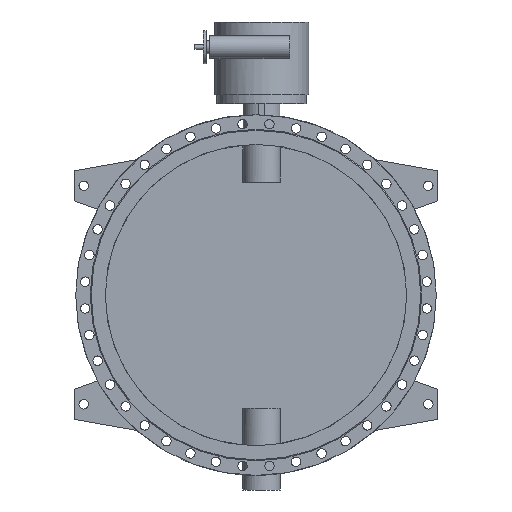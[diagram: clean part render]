
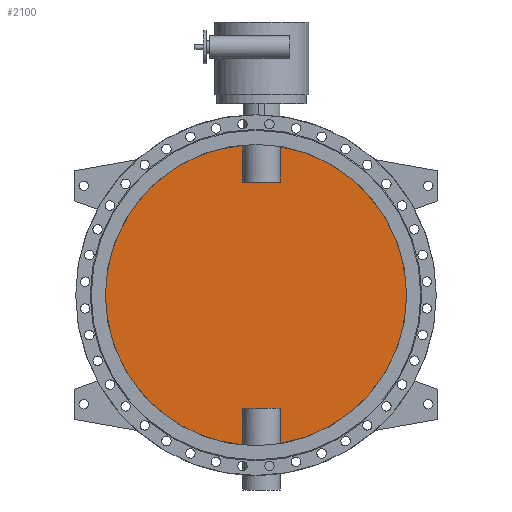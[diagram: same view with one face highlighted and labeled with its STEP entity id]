
A CAD part, front view. The second image highlights one B-rep face of the part: STEP entity #2100.
In plain terms, the highlighted planar face has unit normal (0, -1, 0).
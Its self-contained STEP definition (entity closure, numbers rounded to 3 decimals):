
#2100=ADVANCED_FACE('',(#4492),#4494,.F.);
#4492=FACE_BOUND('',#4493,.T.);
#4493=EDGE_LOOP('',(#5546,#5547,#5548,#5549,#5550,#5551,#5552,#5553));
#4494=PLANE('',#4495);
#4495=AXIS2_PLACEMENT_3D('',#4496,#4497,#4498);
#4496=CARTESIAN_POINT('',(0.,-5.,0.));
#4497=DIRECTION('',(0.,1.,0.));
#4498=DIRECTION('',(1.,0.,0.));
#5546=ORIENTED_EDGE('',*,*,#6073,.T.);
#5547=ORIENTED_EDGE('',*,*,#6079,.T.);
#5548=ORIENTED_EDGE('',*,*,#6080,.T.);
#5549=ORIENTED_EDGE('',*,*,#6081,.T.);
#5550=ORIENTED_EDGE('',*,*,#6075,.T.);
#5551=ORIENTED_EDGE('',*,*,#6082,.T.);
#5552=ORIENTED_EDGE('',*,*,#6083,.T.);
#5553=ORIENTED_EDGE('',*,*,#6084,.T.);
#6073=EDGE_CURVE('',#6969,#6970,#6971,.F.);
#6075=EDGE_CURVE('',#6974,#6972,#6975,.F.);
#6079=EDGE_CURVE('',#6970,#6981,#6982,.T.);
#6080=EDGE_CURVE('',#6981,#6983,#6984,.F.);
#6081=EDGE_CURVE('',#6983,#6974,#6985,.F.);
#6082=EDGE_CURVE('',#6972,#6986,#6987,.F.);
#6083=EDGE_CURVE('',#6986,#6988,#6989,.F.);
#6084=EDGE_CURVE('',#6988,#6969,#6990,.T.);
#6969=VERTEX_POINT('',#10007);
#6970=VERTEX_POINT('',#10008);
#6971=CIRCLE('',#10009,800.);
#6972=VERTEX_POINT('',#10013);
#6974=VERTEX_POINT('',#10112);
#6975=CIRCLE('',#10113,800.);
#6981=VERTEX_POINT('',#10217);
#6982=LINE('',#10218,#10219);
#6983=VERTEX_POINT('',#10221);
#6984=LINE('',#10222,#10223);
#6985=LINE('',#10225,#10226);
#6986=VERTEX_POINT('',#10228);
#6987=LINE('',#10229,#10230);
#6988=VERTEX_POINT('',#10232);
#6989=LINE('',#10233,#10234);
#6990=LINE('',#10236,#10237);
#10007=CARTESIAN_POINT('',(129.875,-5.,-789.387));
#10008=CARTESIAN_POINT('',(129.875,-5.,789.387));
#10009=AXIS2_PLACEMENT_3D('',#10010,#10011,#10012);
#10010=CARTESIAN_POINT('',(0.,-5.,0.));
#10011=DIRECTION('',(0.,1.,0.));
#10012=DIRECTION('',(0.162,0.,0.987));
#10013=CARTESIAN_POINT('',(-69.875,-5.,-796.943));
#10112=CARTESIAN_POINT('',(-69.875,-5.,796.943));
#10113=AXIS2_PLACEMENT_3D('',#10114,#10115,#10116);
#10114=CARTESIAN_POINT('',(0.,-5.,0.));
#10115=DIRECTION('',(0.,1.,0.));
#10116=DIRECTION('',(-0.087,0.,-0.996));
#10217=CARTESIAN_POINT('',(129.875,-5.,600.));
#10218=CARTESIAN_POINT('',(129.875,-5.,789.387));
#10219=VECTOR('',#10220,1.);
#10220=DIRECTION('',(0.,0.,-1.));
#10221=CARTESIAN_POINT('',(-69.875,-5.,600.));
#10222=CARTESIAN_POINT('',(-69.875,-5.,600.));
#10223=VECTOR('',#10224,1.);
#10224=DIRECTION('',(1.,0.,0.));
#10225=CARTESIAN_POINT('',(-69.875,-5.,796.943));
#10226=VECTOR('',#10227,1.);
#10227=DIRECTION('',(0.,0.,-1.));
#10228=CARTESIAN_POINT('',(-69.875,-5.,-600.));
#10229=CARTESIAN_POINT('',(-69.875,-5.,-600.));
#10230=VECTOR('',#10231,1.);
#10231=DIRECTION('',(0.,0.,-1.));
#10232=CARTESIAN_POINT('',(129.875,-5.,-600.));
#10233=CARTESIAN_POINT('',(129.875,-5.,-600.));
#10234=VECTOR('',#10235,1.);
#10235=DIRECTION('',(-1.,0.,0.));
#10236=CARTESIAN_POINT('',(129.875,-5.,-600.));
#10237=VECTOR('',#10238,1.);
#10238=DIRECTION('',(0.,0.,-1.));
